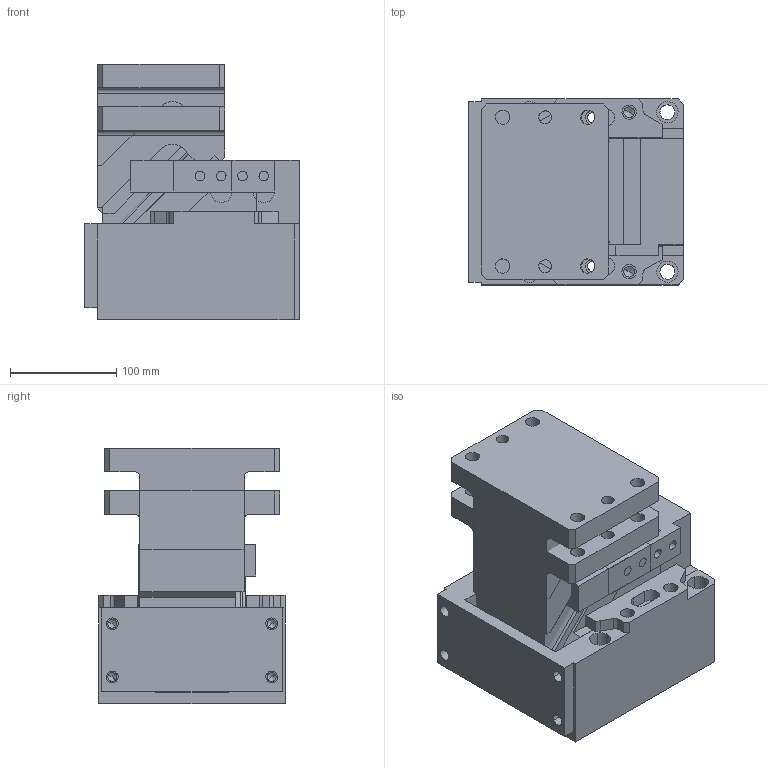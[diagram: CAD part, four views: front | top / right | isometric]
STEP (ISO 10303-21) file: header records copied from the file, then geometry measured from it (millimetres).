
FILE_DESCRIPTION(('CATIA V5 STEP','CAx-IF Rec.Pracs.--- Model Styling and Organization---1.4--- 2014-01-23','CAx-IF Rec.Pracs.---3D Tessellated Data Validation Properties---0.5---2014-09-14'),'2;1');
FILE_NAME('H:\_COMPRESS_2\2016.14.00.100.040.1.2__CM.stp','2020-11-18T12:50:37+00:00',('${USER}'),('AUDI AG, ${GROUP}'),'CATIA Version 5-6 Release 2018 SP3 HF27','CATIA V5 STEP AP242','none');
FILE_SCHEMA(('AP242_MANAGED_MODEL_BASED_3D_ENGINEERING_MIM_LF {1 0 10303 442 1 1 4}'));
Length unit declared in the file: millimetre
Products named in the file (1): 2016.14.00.100.040.1.2__CM
Bounding box: 202 x 175 x 240 mm (x, y, z)
Volume: 7082571 mm3; surface area: 608663.7 mm2
Topology: 4 solids, 8 shells, 660 faces, 1603 edges, 1004 vertices
Faces by surface type: plane 319, cylinder 263, cone 40, torus 32, sphere 4, bspline 2
Entity records: 18283 total; most frequent: CARTESIAN_POINT 3876, ORIENTED_EDGE 3128, DIRECTION 2428, EDGE_CURVE 1564, AXIS2_PLACEMENT_3D 1000, VERTEX_POINT 1000, VECTOR 962, LINE 962
